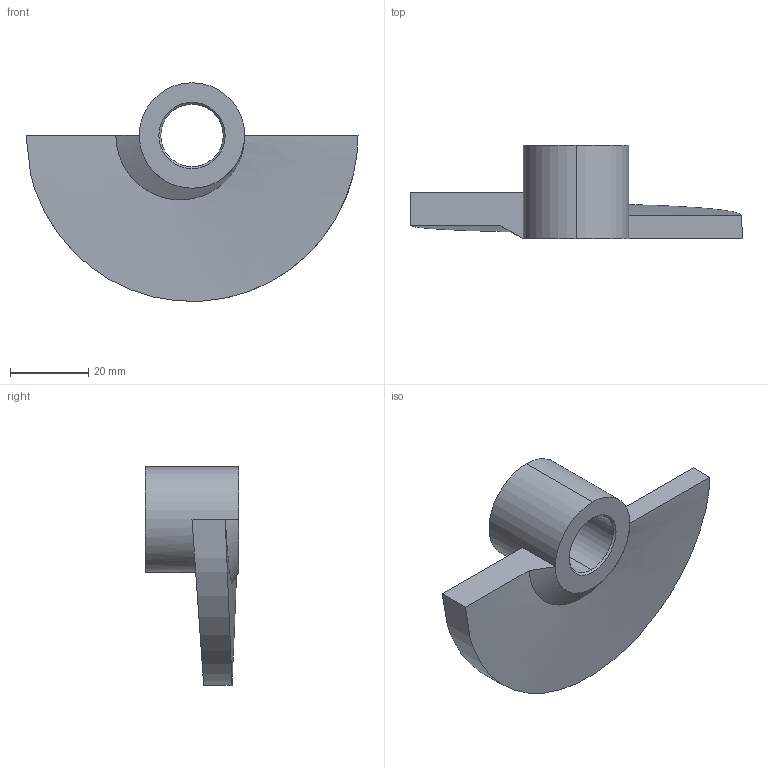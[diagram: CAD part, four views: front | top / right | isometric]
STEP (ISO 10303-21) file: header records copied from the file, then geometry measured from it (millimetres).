
FILE_DESCRIPTION (( 'STEP AP203' ), '1' );
FILE_NAME ('Wiberger-gn218_r_85x16.step', '2014-08-05T06:37:42', ( 'Magnus' ), ( 'Microsoft' ), 'SwSTEP 2.0', 'SolidWorks 2014', '' );
FILE_SCHEMA (( 'CONFIG_CONTROL_DESIGN' ));
Length unit declared in the file: millimetre
Products named in the file (1): Wiberger-gn218_r_85x16
Bounding box: 85 x 24 x 55.93 mm (x, y, z)
Volume: 27552.2 mm3; surface area: 10109.5 mm2
Topology: 1 solids, 1 shells, 21 faces, 47 edges, 27 vertices
Faces by surface type: cylinder 7, bspline 6, cone 4, plane 4
Entity records: 1336 total; most frequent: CARTESIAN_POINT 829, ORIENTED_EDGE 92, DIRECTION 79, EDGE_CURVE 46, AXIS2_PLACEMENT_3D 31, VERTEX_POINT 27, EDGE_LOOP 23, ADVANCED_FACE 21
